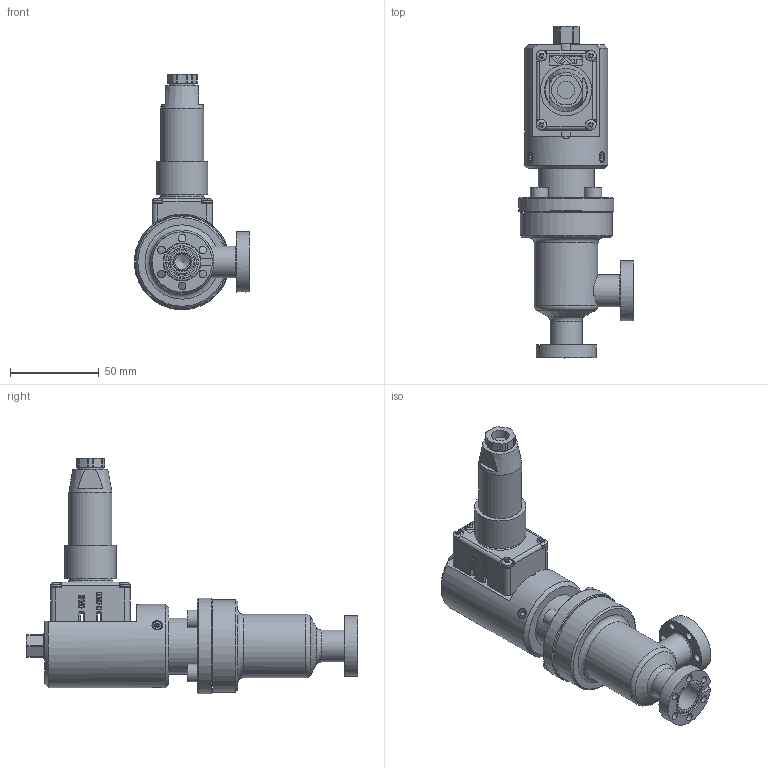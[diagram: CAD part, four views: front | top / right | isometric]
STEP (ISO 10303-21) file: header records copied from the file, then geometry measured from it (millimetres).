
FILE_DESCRIPTION(/* description */ (''),/* implementation_level */ '2;1');
FILE_NAME(/* name */ '1027697250_203.stp',/* time_stamp */ '2016-02-08T11:15:10+01:00',/* author */ (''),/* organization */ (''),/* preprocessor_version */ 'ST-DEVELOPER v15',/* originating_system */ 'SIEMENS PLM Software NX 9.0',/* authorisation */ '');
FILE_SCHEMA (('AP203_CONFIGURATION_CONTROLLED_3D_DESIGN_OF_MECHANICAL_PARTS_AND_ASSEMBLIES_MIM_LF { 1 0 10303 403 2 1 2}'));
Length unit declared in the file: millimetre
Products named in the file (12): n-8504-002; 69672-01; n-6024-531; N-5019-788.1; N-6072-053.1; 203897.5; 223626.3; 313142.1; 260102.1; 265500.2; 265498.2; 316516.2
Assembly tree (20 placements, depth 2):
  316516.2
    265498.2
    265500.2
    260102.1  x2
    313142.1
    223626.3
    203897.5
    N-6072-053.1  x3
    N-5019-788.1  x4
    n-6024-531  x4
    69672-01
    n-8504-002
Bounding box: 64.95 x 187.53 x 132.9 mm (x, y, z)
Volume: 204791.8 mm3; surface area: 93862.3 mm2
Topology: 31 solids, 31 shells, 881 faces, 2120 edges, 1383 vertices
Faces by surface type: plane 509, cylinder 219, cone 60, extrusion 56, bspline 25, torus 8, sphere 4
Full cylindrical faces by diameter (mm): 1.66 x7, 1.95 x4, 2.25 x4, 2.5 x4, 3 x8, 3.1 x7, 3.2 x2, 3.4 x4, 4.3 x12, 4.96 x7, 5 x11, 6 x22, 6.4 x4, 8.5 x1, 10 x6, 10.125 x1, 12.925 x1, 12.95 x1, 13.3 x1, 13.85 x1, 14.6 x1, 14.9 x1, 15 x1, 16 x3, 17.5 x1, 17.55 x1, 18 x2, 18.15 x1, 18.25 x2, 20.75 x4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
Entity records: 28073 total; most frequent: CARTESIAN_POINT 10462, ORIENTED_EDGE 3098, DIRECTION 2931, EDGE_CURVE 1549, VERTEX_POINT 1123, AXIS2_PLACEMENT_3D 1077, EDGE_LOOP 1054, VECTOR 777
